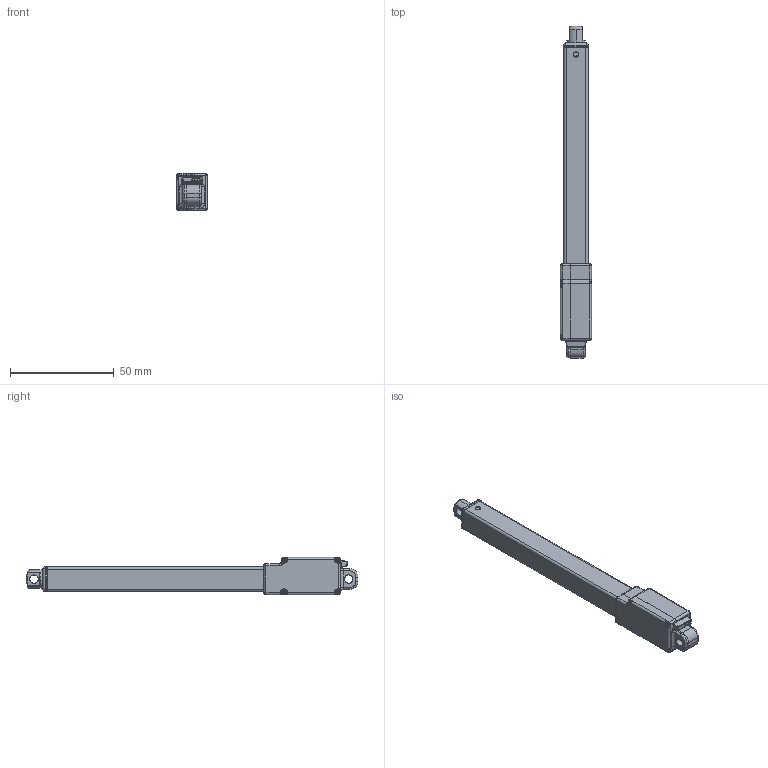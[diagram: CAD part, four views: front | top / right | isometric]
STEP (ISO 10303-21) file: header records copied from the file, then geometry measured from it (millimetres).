
FILE_DESCRIPTION (( 'STEP AP203' ), '1' );
FILE_NAME ('HLS12-100.STEP', '2020-12-11T16:08:41', ( '' ), ( '' ), 'SwSTEP 2.0', 'SolidWorks 2016', '' );
FILE_SCHEMA (( 'CONFIG_CONTROL_DESIGN' ));
Length unit declared in the file: millimetre
Products named in the file (9): HLS12 Grommet; HLS12 Extension Tube Cap; HLS12 Right Side Case; HLS12-100 Extension Tube Cover; HLS12 Case Screw; HLS12-100 Extension Tube; HLS12-100; HLS12 Left Side Case; HLS12 Standard Tube End
Assembly tree (11 placements, depth 2):
  HLS12-100
    HLS12 Standard Tube End
    HLS12 Extension Tube Cap
    HLS12-100 Extension Tube Cover
    HLS12 Left Side Case
    HLS12 Right Side Case
    HLS12 Case Screw  x4
    HLS12 Grommet
    HLS12-100 Extension Tube
Bounding box: 15 x 160.37 x 18 mm (x, y, z)
Volume: 16348.7 mm3; surface area: 22418.9 mm2
Topology: 11 solids, 12 shells, 1794 faces, 4407 edges, 2665 vertices
Faces by surface type: cylinder 799, plane 583, torus 187, bspline 141, sphere 64, cone 20
Entity records: 56678 total; most frequent: CARTESIAN_POINT 25179, DIRECTION 6440, ORIENTED_EDGE 6368, EDGE_CURVE 3184, AXIS2_PLACEMENT_3D 2461, VERTEX_POINT 1978, VECTOR 1518, LINE 1518
